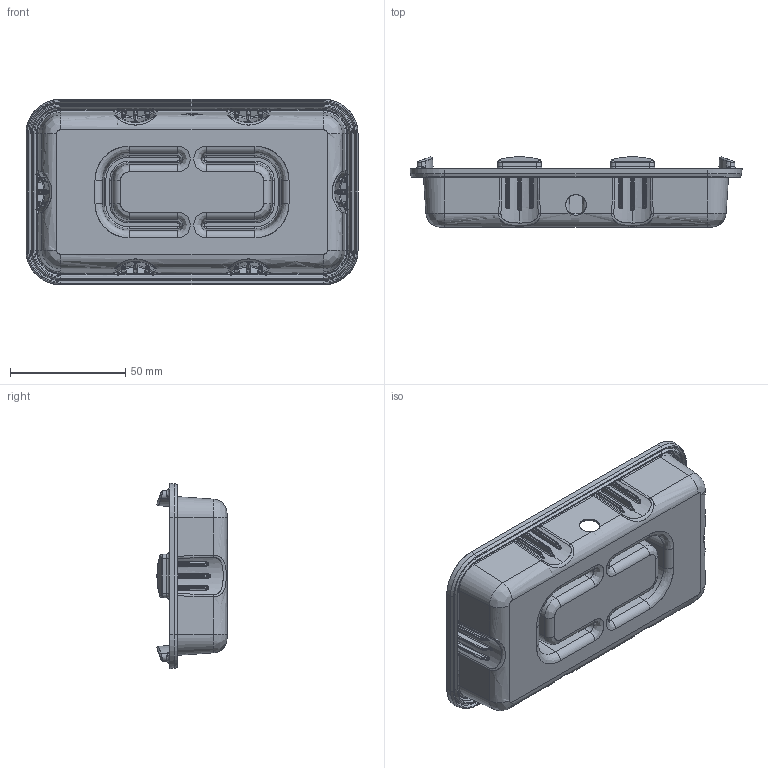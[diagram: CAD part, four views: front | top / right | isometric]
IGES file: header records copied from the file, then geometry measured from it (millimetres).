
Start section: SolidWorks IGES file using analytic representation for surfaces
Global section: file name: C:\Working\1015\1015 oem DRAWING\1015-966-CLR.IGS; native system: SolidWorks 2007; preprocessor: SolidWorks 2007; author: mhakami; date: 090811.173506; units: inch
Bounding box: 143.94 x 30.37 x 80.44 mm (x, y, z)
Surface area: 54968.7 mm2 (no closed solid volume)
Topology: 0 solids, 0 shells, 1095 faces, 8254 edges, 8230 vertices
Faces by surface type: bspline 669, revolution 426
